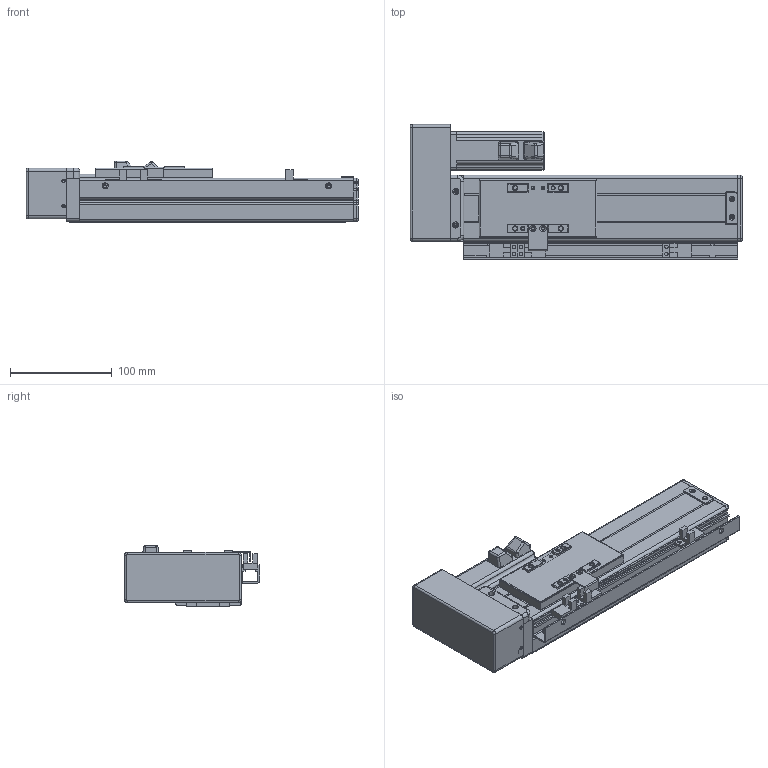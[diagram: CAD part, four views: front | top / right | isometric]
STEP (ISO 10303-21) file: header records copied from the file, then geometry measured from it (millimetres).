
FILE_DESCRIPTION (( 'STEP AP203' ), '1' );
FILE_NAME ('VT6-L10-C-S120-BR-P10-D4.STEP', '2015-10-26T06:15:05', ( '' ), ( '' ), 'SwSTEP 2.0', 'SolidWorks 2013', '' );
FILE_SCHEMA (( 'CONFIG_CONTROL_DESIGN' ));
Length unit declared in the file: millimetre
Products named in the file (17): ET6-BC耜啣_120; T6-賑雄殤; T6-裔啣; T6-揤輸; T6-綴傷裔; ET6-BLRM絳寢_俴最120; ET6-BLRM滅鳥湍_120; ET6-BLRM佪裝_120; T6-BMLRヶ傷裔; T6-BMRLヶ傷裔揤啣; T6-BMRL肮祭湍謫欶; 侂狟100W MSMD012G1U; T6-BRL萇儂假蚾啣; T6-覜茼え; ET6-BC癹弇羲壽羞_120; EE-XS674; VT6-L10-C-S120-BR-P10-D4
Assembly tree (19 placements, depth 2):
  VT6-L10-C-S120-BR-P10-D4
    ET6-BC耜啣_120  x2
    T6-賑雄殤
    T6-裔啣
    T6-揤輸
    T6-綴傷裔
    ET6-BLRM絳寢_俴最120
    ET6-BLRM滅鳥湍_120
    ET6-BLRM佪裝_120
    T6-BMLRヶ傷裔
    T6-BMRLヶ傷裔揤啣
    T6-BMRL肮祭湍謫欶
    侂狟100W MSMD012G1U
    T6-BRL萇儂假蚾啣
    T6-覜茼え
    ET6-BC癹弇羲壽羞_120
    EE-XS674  x3
Bounding box: 327 x 133 x 61 mm (x, y, z)
Volume: 540421.2 mm3; surface area: 305376.9 mm2
Topology: 19 solids, 19 shells, 869 faces, 2292 edges, 1448 vertices
Faces by surface type: cylinder 395, plane 374, cone 46, torus 36, sphere 18
Entity records: 26657 total; most frequent: CARTESIAN_POINT 4489, DIRECTION 4434, ORIENTED_EDGE 4102, EDGE_CURVE 2051, AXIS2_PLACEMENT_3D 1613, VERTEX_POINT 1308, LINE 1208, VECTOR 1208
